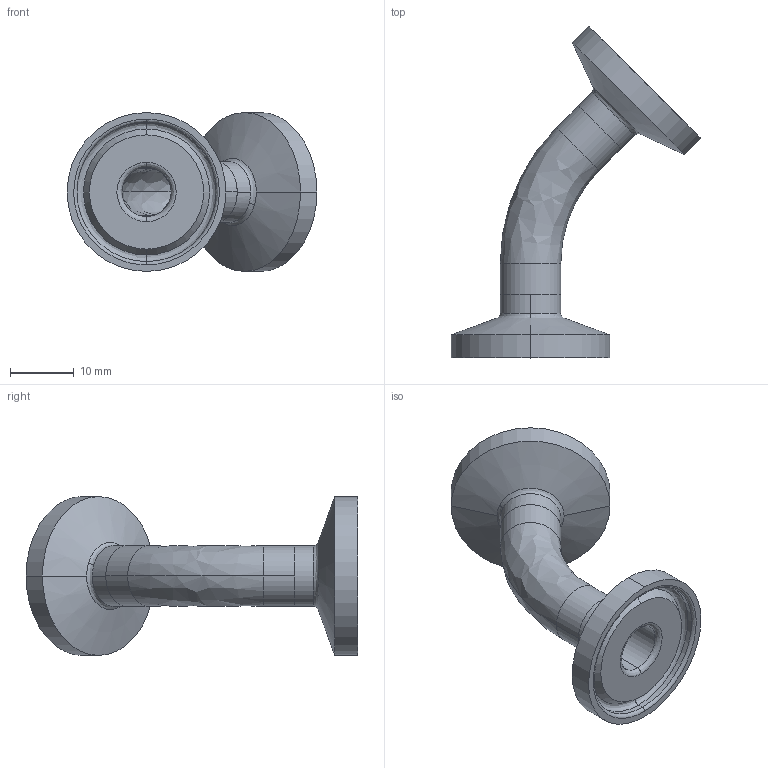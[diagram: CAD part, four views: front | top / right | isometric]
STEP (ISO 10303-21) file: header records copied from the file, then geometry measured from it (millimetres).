
FILE_DESCRIPTION (( 'STEP AP214' ), '1' );
FILE_NAME ('TEG2K6L.375-...STEP', '2016-05-22T07:29:12', ( 'eran' ), ( '' ), 'SwSTEP 2.0', 'SolidWorks 2016', '' );
FILE_SCHEMA (( 'AUTOMOTIVE_DESIGN' ));
Length unit declared in the file: millimetre
Products named in the file (1): TEG2K6L.375-..
Bounding box: 39.29 x 52.2 x 24.99 mm (x, y, z)
Volume: 4479.4 mm3; surface area: 4999.4 mm2
Topology: 3 solids, 3 shells, 60 faces, 132 edges, 80 vertices
Faces by surface type: cylinder 24, bspline 20, plane 8, cone 8
Entity records: 1960 total; most frequent: CARTESIAN_POINT 597, DIRECTION 298, ORIENTED_EDGE 264, AXIS2_PLACEMENT_3D 133, EDGE_CURVE 132, CIRCLE 92, VERTEX_POINT 80, EDGE_LOOP 68
